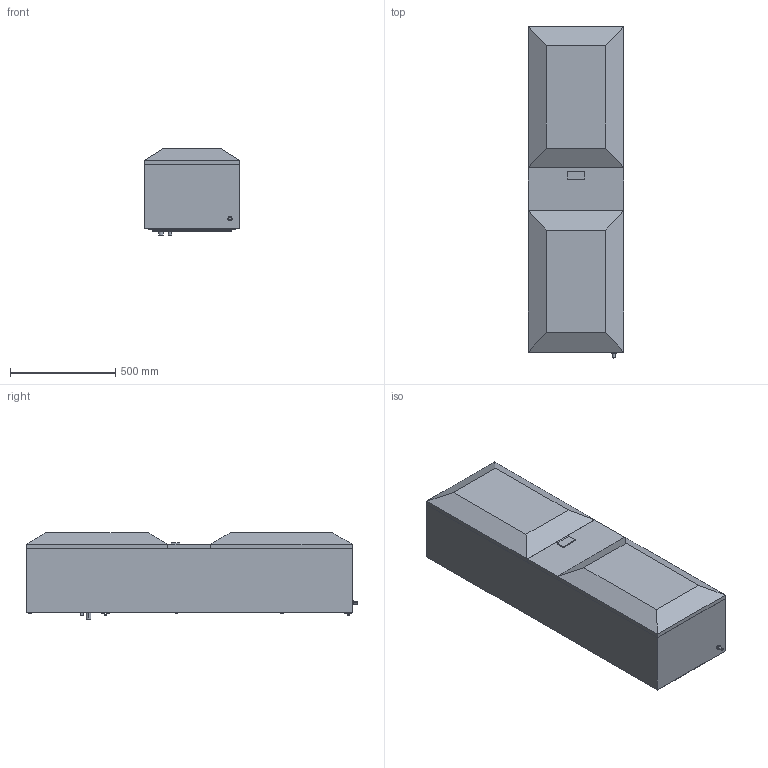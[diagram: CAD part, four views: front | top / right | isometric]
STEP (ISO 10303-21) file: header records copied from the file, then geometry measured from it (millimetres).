
FILE_DESCRIPTION((''),'2;1');
FILE_NAME('85629576-1','2024-07-23T09:50:35',('danielc'),(''),'CREO PARAMETRIC BY PTC INC, 2023294','CREO PARAMETRIC BY PTC INC, 2023294','');
FILE_SCHEMA(('CONFIG_CONTROL_DESIGN','SHAPE_APPEARANCE_LAYERS_GROUPS'));
Length unit declared in the file: millimetre
Products named in the file (1): 85629576-1
Bounding box: 455 x 1577 x 408.75 mm (x, y, z)
Volume: 251617986.7 mm3; surface area: 4277421.8 mm2
Topology: 5 solids, 5 shells, 311 faces, 728 edges, 480 vertices
Faces by surface type: plane 225, cylinder 82, extrusion 4
Entity records: 11183 total; most frequent: CARTESIAN_POINT 1629, DIRECTION 1486, ORIENTED_EDGE 1456, PRESENTATION_STYLE_ASSIGNMENT 733, STYLED_ITEM 733, CURVE_STYLE 728, EDGE_CURVE 728, VECTOR 552
